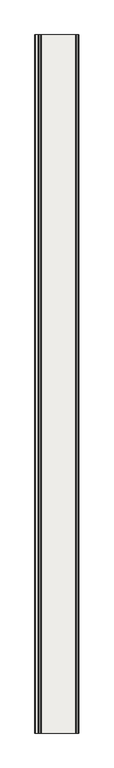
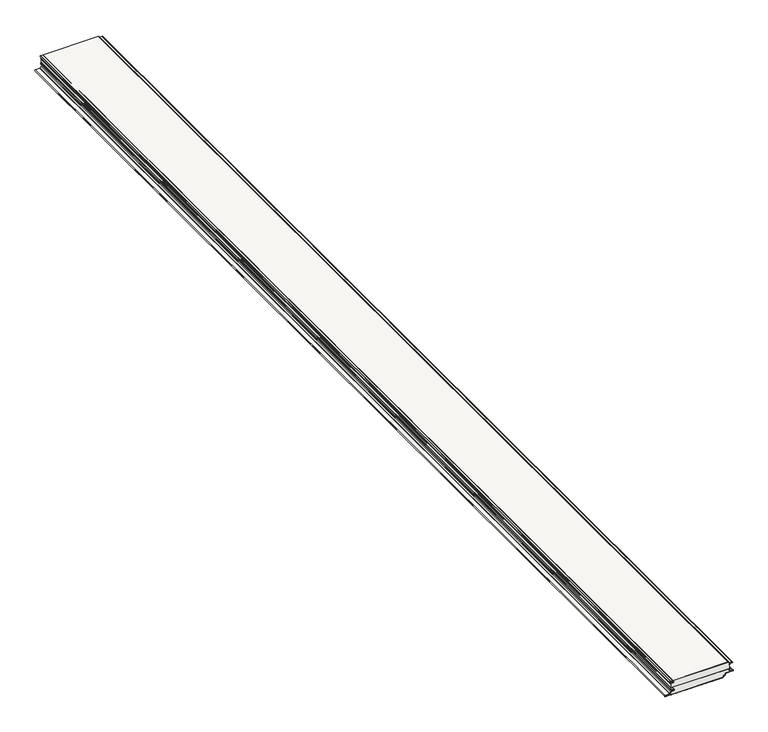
"""IFC4 building model written with IfcOpenShell, lengths in millimetres: covering geometry, Wall sandwich panel SPW-H CORE WOOL (single sheet) : -."""

from ifc_helpers import new_model, si_unit, point, frame, frame_2d, origin, place, context, project, spatial, polyline, circle_curve, trimmed, segment, composite_curve, outline, extrude, source, transform, mapped, element, save
from ifc_brep_helpers import plane_surface, cylinder_surface, revolved_surface, advanced_brep


def covering_faf521a6(model_context):
    return source(origin(), model_context, "Body", "SolidModel", [
        extrude(outline(composite_curve([segment(polyline([(-80.0, -353.2820076), (-80.4045269, -341.4570076), (-80.0, -329.6320076), (-80.4045269, -317.8070076), (-80.0, -305.9820076), (-80.4045269, -294.1570076), (-80.0, -282.3320076), (-80.4045269, -270.5070076), (-80.0, -258.6820076), (-80.4045269, -246.8570076), (-80.0, -235.0320076), (-80.4045269, -223.2070076), (-80.0, -211.3820076), (-80.4045269, -199.5570076), (-80.0, -187.7320076), (-80.4045269, -175.9070076), (-80.0, -164.0820076), (-80.4045269, -152.2570076), (-80.0, -140.4320076), (-80.4045269, -128.6070076), (-80.0, -116.7820076), (-80.4045269, -104.9570076), (-80.0, -93.1320076), (-80.0, -73.4477183)]), True, "CONTINUOUS"), segment(trimmed(circle_curve(frame_2d((-75.0, -73.4477183)), 5.0), [point((-80.0, -73.4477183))], [point((-75.0, -68.4477183))], False, "CARTESIAN"), True, "CONTINUOUS"), segment(polyline([(-75.0, -68.4477183), (-72.0092241, -68.4477183)]), True, "CONTINUOUS"), segment(trimmed(circle_curve(frame_2d((-72.0092241, -66.4315256)), 2.0161927), [point((-72.0092241, -68.4477183))], [point((-69.9930314, -66.4315256))], True, "CARTESIAN"), True, "CONTINUOUS"), segment(polyline([(-69.9930314, -66.4315256), (-69.9930314, -60.9141788)]), True, "CONTINUOUS"), segment(trimmed(circle_curve(frame_2d((-67.497194, -60.9141788)), 2.4958374), [point((-69.9930314, -60.9141788))], [point((-67.9318686, -58.4564843))], False, "CARTESIAN"), True, "CONTINUOUS"), segment(polyline([(-67.9318686, -58.4564843), (-61.6533464, -57.3460478)]), True, "CONTINUOUS"), segment(trimmed(circle_curve(frame_2d((-62.0004127, -55.3763918)), 2.0), [point((-61.6533464, -57.3460478))], [point((-60.0004127, -55.3763918))], True, "CARTESIAN"), True, "CONTINUOUS"), segment(polyline([(-60.0004127, -55.3763918), (-60.0004127, -18.8763918)]), True, "CONTINUOUS"), segment(trimmed(circle_curve(frame_2d((-57.0004127, -18.8763918)), 3.0), [point((-60.0004127, -18.8763918))], [point((-54.0045241, -18.7193839))], False, "CARTESIAN"), True, "CONTINUOUS"), segment(polyline([(-54.0045241, -18.7193839), (-53.2754556, -32.6308399)]), True, "CONTINUOUS"), segment(trimmed(circle_curve(frame_2d((-50.7788817, -32.5)), 2.5), [point((-53.2754556, -32.6308399))], [point((-50.7788817, -35.0))], True, "CARTESIAN"), True, "CONTINUOUS"), segment(polyline([(-50.7788817, -35.0), (-41.4988817, -35.0), (-41.4988817, -36.0), (-50.7788817, -36.0)]), True, "CONTINUOUS"), segment(trimmed(circle_curve(frame_2d((-50.7788817, -32.5)), 3.5), [point((-50.7788817, -36.0))], [point((-54.2740851, -32.6831758))], False, "CARTESIAN"), True, "CONTINUOUS"), segment(polyline([(-54.2740851, -32.6831758), (-55.0031536, -18.7717199)]), True, "CONTINUOUS"), segment(trimmed(circle_curve(frame_2d((-57.0004127, -18.8763918)), 2.0), [point((-55.0031536, -18.7717199))], [point((-59.0004127, -18.8763918))], True, "CARTESIAN"), True, "CONTINUOUS"), segment(polyline([(-59.0004127, -18.8763918), (-59.0004127, -55.3763918)]), True, "CONTINUOUS"), segment(trimmed(circle_curve(frame_2d((-62.0004127, -55.3763918)), 3.0), [point((-59.0004127, -55.3763918))], [point((-61.4794682, -58.330815))], False, "CARTESIAN"), True, "CONTINUOUS"), segment(polyline([(-61.4794682, -58.330815), (-67.7577087, -59.4412018)]), True, "CONTINUOUS"), segment(trimmed(circle_curve(frame_2d((-67.497194, -60.9141788)), 1.4958373), [point((-67.7577087, -59.4412018))], [point((-68.9930314, -60.9141788))], True, "CARTESIAN"), True, "CONTINUOUS"), segment(polyline([(-68.9930314, -60.9141788), (-68.9930314, -66.4315256)]), True, "CONTINUOUS"), segment(trimmed(circle_curve(frame_2d((-72.0092241, -66.4315256)), 3.0161927), [point((-68.9930314, -66.4315256))], [point((-72.0092241, -69.4477183))], False, "CARTESIAN"), True, "CONTINUOUS"), segment(polyline([(-72.0092241, -69.4477183), (-75.0, -69.4477183)]), True, "CONTINUOUS"), segment(trimmed(circle_curve(frame_2d((-75.0, -73.4477183)), 4.0), [point((-75.0, -69.4477183))], [point((-79.0, -73.4477183))], True, "CARTESIAN"), True, "CONTINUOUS"), segment(polyline([(-79.0, -73.4477183), (-79.0, -360.2066993), (-80.23689, -360.2066993), (-80.0, -353.2820076)]), True, "CONTINUOUS")], self_intersect=False)), frame((0.0, -6000.0, 0.0), z_axis=(0.0, 1.0, 0.0), x_axis=(0.0, 0.0, 1.0)), (0.0, 0.0, 1.0), 6000.0),
        extrude(outline(composite_curve([segment(polyline([(-79.0, -360.2066993), (-80.0, -360.2066993), (-80.0, -73.4477183)]), True, "CONTINUOUS"), segment(trimmed(circle_curve(frame_2d((-75.0, -73.4477183)), 5.0), [point((-80.0, -73.4477183))], [point((-75.0, -68.4477183))], False, "CARTESIAN"), True, "CONTINUOUS"), segment(polyline([(-75.0, -68.4477183), (-72.008232, -68.4477183)]), True, "CONTINUOUS"), segment(trimmed(circle_curve(frame_2d((-72.008232, -66.4315256)), 2.0161927), [point((-72.008232, -68.4477183))], [point((-69.9920393, -66.4315256))], True, "CARTESIAN"), True, "CONTINUOUS"), segment(polyline([(-69.9920393, -66.4315256), (-69.9920393, -60.9141788)]), True, "CONTINUOUS"), segment(trimmed(circle_curve(frame_2d((-67.4959919, -60.9141788)), 2.4960474), [point((-69.9920393, -60.9141788))], [point((-67.9326372, -58.4566204))], False, "CARTESIAN"), True, "CONTINUOUS"), segment(polyline([(-67.9326372, -58.4566204), (-61.6533464, -57.3460478)]), True, "CONTINUOUS"), segment(trimmed(circle_curve(frame_2d((-62.0004127, -55.3763918)), 2.0), [point((-61.6533464, -57.3460478))], [point((-60.0004127, -55.3763918))], True, "CARTESIAN"), True, "CONTINUOUS"), segment(polyline([(-60.0004127, -55.3763918), (-60.0004127, -18.8763918)]), True, "CONTINUOUS"), segment(trimmed(circle_curve(frame_2d((-57.0004127, -18.8763918)), 3.0), [point((-60.0004127, -18.8763918))], [point((-54.0045241, -18.7193839))], False, "CARTESIAN"), True, "CONTINUOUS"), segment(polyline([(-54.0045241, -18.7193839), (-53.2754556, -32.6308399)]), True, "CONTINUOUS"), segment(trimmed(circle_curve(frame_2d((-50.7788817, -32.5)), 2.5), [point((-53.2754556, -32.6308399))], [point((-50.7788817, -35.0))], True, "CARTESIAN"), True, "CONTINUOUS"), segment(polyline([(-50.7788817, -35.0), (-41.4988817, -35.0), (-41.4988817, -36.0), (-50.7788817, -36.0)]), True, "CONTINUOUS"), segment(trimmed(circle_curve(frame_2d((-50.7788817, -32.5)), 3.5), [point((-50.7788817, -36.0))], [point((-54.2740851, -32.6831758))], False, "CARTESIAN"), True, "CONTINUOUS"), segment(polyline([(-54.2740851, -32.6831758), (-55.0031536, -18.7717199)]), True, "CONTINUOUS"), segment(trimmed(circle_curve(frame_2d((-57.0004127, -18.8763918)), 2.0), [point((-55.0031536, -18.7717199))], [point((-59.0004127, -18.8763918))], True, "CARTESIAN"), True, "CONTINUOUS"), segment(polyline([(-59.0004127, -18.8763918), (-59.0004127, -55.3763918)]), True, "CONTINUOUS"), segment(trimmed(circle_curve(frame_2d((-62.0004127, -55.3763918)), 3.0), [point((-59.0004127, -55.3763918))], [point((-61.4794682, -58.330815))], False, "CARTESIAN"), True, "CONTINUOUS"), segment(polyline([(-61.4794682, -58.330815), (-67.7580406, -59.4412605)]), True, "CONTINUOUS"), segment(trimmed(circle_curve(frame_2d((-67.4959919, -60.9141788)), 1.4960474), [point((-67.7580406, -59.4412605))], [point((-68.9920393, -60.9141788))], True, "CARTESIAN"), True, "CONTINUOUS"), segment(polyline([(-68.9920393, -60.9141788), (-68.9920393, -66.4315256)]), True, "CONTINUOUS"), segment(trimmed(circle_curve(frame_2d((-72.008232, -66.4315256)), 3.0161927), [point((-68.9920393, -66.4315256))], [point((-72.008232, -69.4477183))], False, "CARTESIAN"), True, "CONTINUOUS"), segment(polyline([(-72.008232, -69.4477183), (-75.0, -69.4477183)]), True, "CONTINUOUS"), segment(trimmed(circle_curve(frame_2d((-75.0, -73.4477183)), 4.0), [point((-75.0, -69.4477183))], [point((-79.0, -73.4477183))], True, "CARTESIAN"), True, "CONTINUOUS"), segment(polyline([(-79.0, -73.4477183), (-79.0, -360.2066993)]), True, "CONTINUOUS")], self_intersect=False)), frame((0.0, -6000.0, 0.0), z_axis=(0.0, 1.0, 0.0), x_axis=(0.0, 0.0, 1.0)), (0.0, 0.0, 1.0), 6000.0),
        extrude(outline(composite_curve([segment(polyline([(-15.1088808, -358.2590335), (-14.5423642, -347.4488908)]), True, "CONTINUOUS"), segment(trimmed(circle_curve(frame_2d((-9.549216, -347.7105619)), 5.0), [point((-14.5423642, -347.4488908))], [point((-4.5522622, -347.5360557))], False, "CARTESIAN"), True, "CONTINUOUS"), segment(polyline([(-4.5522622, -347.5360557), (-4.0495702, -361.9305506)]), True, "CONTINUOUS"), segment(trimmed(circle_curve(frame_2d((-2.5266447, -361.8240519)), 1.5266447), [point((-4.0495702, -361.9305506))], [point((-1.0, -361.8240519))], True, "CARTESIAN"), True, "CONTINUOUS"), segment(polyline([(-1.0, -361.8240519), (-1.0, -360.2066993), (0.0, -360.2066993), (0.0, -361.8240519)]), True, "CONTINUOUS"), segment(trimmed(circle_curve(frame_2d((-2.5266447, -361.8240519)), 2.5266447), [point((0.0, -361.8240519))], [point((-5.0484281, -361.9807108))], False, "CARTESIAN"), True, "CONTINUOUS"), segment(polyline([(-5.0484281, -361.9807108), (-5.551653, -347.5709569)]), True, "CONTINUOUS"), segment(trimmed(circle_curve(frame_2d((-9.549216, -347.7105619)), 4.0), [point((-5.551653, -347.5709569))], [point((-13.5437346, -347.501225))], True, "CARTESIAN"), True, "CONTINUOUS"), segment(polyline([(-13.5437346, -347.501225), (-14.1102512, -358.3113678)]), True, "CONTINUOUS"), segment(trimmed(circle_curve(frame_2d((-16.1075105, -358.2066993)), 2.0), [point((-14.1102512, -358.3113678))], [point((-16.1075105, -360.2066993))], False, "CARTESIAN"), True, "CONTINUOUS"), segment(polyline([(-16.1075105, -360.2066993), (-18.1075105, -360.2066993), (-18.1075105, -359.2066993), (-16.1075105, -359.2066993)]), True, "CONTINUOUS"), segment(trimmed(circle_curve(frame_2d((-16.1075105, -358.2066993)), 1.0), [point((-16.1075105, -359.2066993))], [point((-15.1088808, -358.2590335))], True, "CARTESIAN"), True, "CONTINUOUS")], self_intersect=False)), frame((0.0, -6000.0, 0.0), z_axis=(0.0, 1.0, 0.0), x_axis=(0.0, 0.0, 1.0)), (0.0, 0.0, 1.0), 6000.0),
        advanced_brep(
        [(-355.7891872, -6000.0, -62.0150874), (-344.5391872, -6000.0, -61.9992045), (-344.2776818, -6000.0, -52.0060522), (-358.4809204, -6000.0, -51.2619406), (-359.2066993, -6000.0, -50.4971426), (-359.2066993, -6000.0, -41.4971426), (-360.2066993, -6000.0, -41.4971426), (-360.2066993, -6000.0, -50.4971426), (-358.5332389, -6000.0, -52.260571), (-344.3300003, -6000.0, -53.0046827), (-344.539863, -6000.0, -60.9992044), (-355.8463575, -6000.0, -61.0151671), (-357.9966384, -6000.0, -62.27871), (-363.3563627, -6000.0, -69.933474), (-365.4042242, -6000.0, -70.9995686), (-388.6210738, -6000.0, -70.9999738), (-388.6209953, -6000.0, -80.0), (-360.2066993, -6000.0, -80.0), (-360.2066993, -6000.0, -79.0), (-388.6209953, -6000.0, -79.0), (-388.6210564, -6000.0, -72.0), (-365.4042068, -6000.0, -71.9995686), (-362.5372007, -6000.0, -70.5070361), (-357.1774764, -6000.0, -62.8522722), (-355.7891872, 0.0, -62.0150874), (-357.1774764, 0.0, -62.8522722), (-362.5372007, 0.0, -70.5070361), (-365.4042068, 0.0, -71.9995686), (-388.6210564, 0.0, -71.9999738), (-388.6209953, 0.0, -79.0), (-360.2066993, 0.0, -79.0), (-360.2066993, 0.0, -80.0), (-388.6209953, 0.0, -80.0), (-388.6210738, 0.0, -71.0), (-365.4042242, 0.0, -70.9995686), (-363.3563627, 0.0, -69.933474), (-357.9966384, 0.0, -62.27871), (-355.8463575, 0.0, -61.0151671), (-344.539863, 0.0, -60.9992044), (-344.3300003, 0.0, -53.0046827), (-358.5332389, 0.0, -52.260571), (-360.2066993, 0.0, -50.4971426), (-360.2066993, 0.0, -41.4971426), (-359.2066993, 0.0, -41.4971426), (-359.2066993, 0.0, -50.4971426), (-358.4809204, 0.0, -51.2619406), (-344.2776818, 0.0, -52.0060522), (-344.5391872, 0.0, -61.9992045)],
        [
            (0, 1),
            (1, 2, circle_curve(frame((-344.5392744, -6000.0, -56.9992045), z_axis=(0.0, -1.0, 0.0), x_axis=(1.0, 0.0, 0.0)), 5.0)),
            (2, 3),
            (3, 4, circle_curve(frame((-358.4408524, -6000.0, -50.4971426), z_axis=(0.0, 1.0, 0.0), x_axis=(1.0, 0.0, 0.0)), 0.7658469)),
            (4, 5),
            (5, 6),
            (6, 7),
            (7, 8, circle_curve(frame((-358.4408524, -6000.0, -50.4971426), z_axis=(0.0, -1.0, 0.0), x_axis=(1.0, 0.0, 0.0)), 1.7658469)),
            (8, 9),
            (9, 10, circle_curve(frame((-344.5392744, -6000.0, -56.9992045), z_axis=(0.0, 1.0, 0.0), x_axis=(1.0, 0.0, 0.0)), 4.0)),
            (10, 11),
            (11, 12, circle_curve(frame((-355.5391523, -6000.0, -63.9993964), z_axis=(0.0, -1.0, 0.0), x_axis=(1.0, 0.0, 0.0)), 3.0)),
            (12, 13),
            (13, 14, circle_curve(frame((-365.4042679, -6000.0, -68.4995686), z_axis=(0.0, 1.0, 0.0), x_axis=(1.0, 0.0, 0.0)), 2.5)),
            (14, 15),
            (15, 16, circle_curve(frame((-388.6209953, -6000.0, -75.5), z_axis=(0.0, -1.0, 0.0), x_axis=(1.0, 0.0, 0.0)), 4.5)),
            (16, 17),
            (17, 18),
            (18, 19),
            (19, 20, circle_curve(frame((-388.6209953, -6000.0, -75.5), z_axis=(0.0, 1.0, 0.0), x_axis=(1.0, 0.0, 0.0)), 3.5)),
            (20, 21),
            (21, 22, circle_curve(frame((-365.4042679, -6000.0, -68.4995686), z_axis=(0.0, -1.0, 0.0), x_axis=(1.0, 0.0, 0.0)), 3.5)),
            (22, 23),
            (23, 0, circle_curve(frame((-355.5391523, -6000.0, -63.9993964), z_axis=(0.0, 1.0, 0.0), x_axis=(1.0, 0.0, 0.0)), 2.0)),
            (24, 25, circle_curve(frame((-355.5391523, 0.0, -63.9993964), z_axis=(0.0, -1.0, 0.0), x_axis=(1.0, 0.0, 0.0)), 2.0)),
            (25, 26),
            (26, 27, circle_curve(frame((-365.4042679, 0.0, -68.4995686), z_axis=(0.0, 1.0, 0.0), x_axis=(1.0, 0.0, 0.0)), 3.5)),
            (27, 28),
            (28, 29, circle_curve(frame((-388.6209953, 0.0, -75.5), z_axis=(0.0, -1.0, 0.0), x_axis=(1.0, 0.0, 0.0)), 3.5)),
            (29, 30),
            (30, 31),
            (31, 32),
            (32, 33, circle_curve(frame((-388.6209953, 0.0, -75.5), z_axis=(0.0, 1.0, 0.0), x_axis=(1.0, 0.0, 0.0)), 4.5)),
            (33, 34),
            (34, 35, circle_curve(frame((-365.4042679, 0.0, -68.4995686), z_axis=(0.0, -1.0, 0.0), x_axis=(1.0, 0.0, 0.0)), 2.5)),
            (35, 36),
            (36, 37, circle_curve(frame((-355.5391523, 0.0, -63.9993964), z_axis=(0.0, 1.0, 0.0), x_axis=(1.0, 0.0, 0.0)), 3.0)),
            (37, 38),
            (38, 39, circle_curve(frame((-344.5392744, 0.0, -56.9992045), z_axis=(0.0, -1.0, 0.0), x_axis=(1.0, 0.0, 0.0)), 4.0)),
            (39, 40),
            (40, 41, circle_curve(frame((-358.4408524, 0.0, -50.4971426), z_axis=(0.0, 1.0, 0.0), x_axis=(1.0, 0.0, 0.0)), 1.7658469)),
            (41, 42),
            (42, 43),
            (43, 44),
            (44, 45, circle_curve(frame((-358.4408524, 0.0, -50.4971426), z_axis=(0.0, -1.0, 0.0), x_axis=(1.0, 0.0, 0.0)), 0.7658469)),
            (45, 46),
            (46, 47, circle_curve(frame((-344.5392744, 0.0, -56.9992045), z_axis=(0.0, 1.0, 0.0), x_axis=(1.0, 0.0, 0.0)), 5.0)),
            (47, 24),
            (0, 24),
            (47, 1),
            (46, 2),
            (45, 3),
            (44, 4),
            (43, 5),
            (42, 6),
            (41, 7),
            (40, 8),
            (39, 9),
            (38, 10),
            (37, 11),
            (36, 12),
            (35, 13),
            (34, 14),
            (33, 15),
            (32, 16),
            (31, 17),
            (30, 18),
            (29, 19),
            (28, 20),
            (27, 21),
            (26, 22),
            (25, 23),
        ],
        [
            plane_surface(frame((-360.2066993, -6000.0, -80.0), z_axis=(0.0, -1.0, 0.0), x_axis=(0.0, 0.0, -1.0))),
            plane_surface(frame((-360.2066993, 0.0, -80.0), z_axis=(0.0, 1.0, 0.0), x_axis=(0.0, 0.0, -1.0))),
            plane_surface(frame((-355.7891872, -6000.0, -62.0150874), z_axis=(0.001411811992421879, 0.0, -0.9999990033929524), x_axis=(0.0, 1.0, 0.0))),
            cylinder_surface(frame((-344.5392744, -6000.0, -56.9992045), z_axis=(0.0, -1.0, 0.0), x_axis=(1.0, 0.0, 0.0)), 5.0),
            plane_surface(frame((-344.2776818, -6000.0, -52.0060522), z_axis=(0.05231852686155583, 0.0, 0.998630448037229), x_axis=(0.0, 1.0, 0.0))),
            revolved_surface(polyline([(-357.6750055, 0.0, -50.4971426), (-357.6750055, -6000.0, -50.4971426)]), (-358.4408524, -6000.0, -50.4971426), (0.0, 1.0, 0.0)),
            plane_surface(frame((-359.2066993, -6000.0, -50.4971426), z_axis=(1.0, 0.0, 0.0), x_axis=(0.0, 1.0, 0.0))),
            plane_surface(frame((-359.2066993, -6000.0, -41.4971426), z_axis=(0.0, 0.0, 1.0), x_axis=(0.0, 1.0, 0.0))),
            plane_surface(frame((-360.2066993, -6000.0, -41.4971426), z_axis=(-1.0, 0.0, 0.0), x_axis=(0.0, 1.0, 0.0))),
            cylinder_surface(frame((-358.4408524, -6000.0, -50.4971426), z_axis=(0.0, -1.0, 0.0), x_axis=(1.0, 0.0, 0.0)), 1.7658469),
            plane_surface(frame((-358.5332389, -6000.0, -52.260571), z_axis=(-0.052318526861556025, 0.0, -0.998630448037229), x_axis=(0.0, 1.0, 0.0))),
            revolved_surface(polyline([(-340.5392744, 0.0, -56.9992045), (-340.5392744, -6000.0, -56.9992045)]), (-344.5392744, -6000.0, -56.9992045), (0.0, 1.0, 0.0)),
            plane_surface(frame((-344.539863, -6000.0, -60.9992044), z_axis=(-0.0014118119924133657, 0.0, 0.9999990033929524), x_axis=(0.0, 1.0, 0.0))),
            cylinder_surface(frame((-355.5391523, -6000.0, -63.9993964), z_axis=(0.0, -1.0, 0.0), x_axis=(1.0, 0.0, 0.0)), 3.0),
            plane_surface(frame((-357.9966384, -6000.0, -62.27871), z_axis=(-0.8191620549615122, 0.0, 0.5735621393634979), x_axis=(0.0, 1.0, 0.0))),
            revolved_surface(polyline([(-362.9042679, 0.0, -68.4995686), (-362.9042679, -6000.0, -68.4995686)]), (-365.4042679, -6000.0, -68.4995686), (0.0, 1.0, 0.0)),
            plane_surface(frame((-365.4042242, -6000.0, -70.9995686), z_axis=(-1.7453292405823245e-05, 0.0, 0.9999999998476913), x_axis=(0.0, 1.0, 0.0))),
            cylinder_surface(frame((-388.6209953, -6000.0, -75.5), z_axis=(0.0, -1.0, 0.0), x_axis=(1.0, 0.0, 0.0)), 4.5),
            plane_surface(frame((-388.6209953, -6000.0, -80.0), z_axis=(0.0, 0.0, -1.0), x_axis=(0.0, 1.0, 0.0))),
            plane_surface(frame((-360.2066993, -6000.0, -80.0), z_axis=(1.0, 0.0, 0.0), x_axis=(0.0, 1.0, 0.0))),
            plane_surface(frame((-360.2066993, -6000.0, -79.0), z_axis=(0.0, 0.0, 1.0), x_axis=(0.0, 1.0, 0.0))),
            revolved_surface(polyline([(-385.1209953, 0.0, -75.5), (-385.1209953, -6000.0, -75.5)]), (-388.6209953, -6000.0, -75.5), (0.0, 1.0, 0.0)),
            plane_surface(frame((-388.6210564, -6000.0, -71.9999738), z_axis=(1.7453292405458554e-05, 0.0, -0.9999999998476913), x_axis=(0.0, 1.0, 0.0))),
            cylinder_surface(frame((-365.4042679, -6000.0, -68.4995686), z_axis=(0.0, -1.0, 0.0), x_axis=(1.0, 0.0, 0.0)), 3.5),
            plane_surface(frame((-362.5372007, -6000.0, -70.5070361), z_axis=(0.8191620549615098, 0.0, -0.5735621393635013), x_axis=(0.0, 1.0, 0.0))),
            revolved_surface(polyline([(-353.5391523, 0.0, -63.9993964), (-353.5391523, -6000.0, -63.9993964)]), (-355.5391523, -6000.0, -63.9993964), (0.0, 1.0, 0.0)),
        ],
        [
            (0, [[1, 2, 3, 4, 5, 6, 7, 8, 9, 10, 11, 12, 13, 14, 15, 16, 17, 18, 19, 20, 21, 22, 23, 24]]),
            (1, [[25, 26, 27, 28, 29, 30, 31, 32, 33, 34, 35, 36, 37, 38, 39, 40, 41, 42, 43, 44, 45, 46, 47, 48]]),
            (2, [[-1, 49, -48, 50]]),
            (3, [[-2, -50, -47, 51]]),
            (4, [[-3, -51, -46, 52]]),
            (5, [[-4, -52, -45, 53]]),
            (6, [[-5, -53, -44, 54]]),
            (7, [[-6, -54, -43, 55]]),
            (8, [[-7, -55, -42, 56]]),
            (9, [[-8, -56, -41, 57]]),
            (10, [[-9, -57, -40, 58]]),
            (11, [[-10, -58, -39, 59]]),
            (12, [[-11, -59, -38, 60]]),
            (13, [[-12, -60, -37, 61]]),
            (14, [[-13, -61, -36, 62]]),
            (15, [[-14, -62, -35, 63]]),
            (16, [[-15, -63, -34, 64]]),
            (17, [[-16, -64, -33, 65]]),
            (18, [[-17, -65, -32, 66]]),
            (19, [[-18, -66, -31, 67]]),
            (20, [[-19, -67, -30, 68]]),
            (21, [[-20, -68, -29, 69]]),
            (22, [[-21, -69, -28, 70]]),
            (23, [[-22, -70, -27, 71]]),
            (24, [[-23, -71, -26, 72]]),
            (25, [[-24, -72, -25, -49]]),
        ],
    ),
        extrude(outline(composite_curve([segment(polyline([(-1.0, -360.2066993), (-1.0, -42.1186621)]), True, "CONTINUOUS"), segment(trimmed(circle_curve(frame_2d((-2.5, -42.1186621)), 1.5), [point((-1.0, -42.1186621))], [point((-2.5, -40.6186621))], True, "CARTESIAN"), True, "CONTINUOUS"), segment(polyline([(-2.5, -40.6186621), (-4.3, -40.6186621)]), True, "CONTINUOUS"), segment(trimmed(circle_curve(frame_2d((-4.3, -38.1186621)), 2.5), [point((-4.3, -40.6186621))], [point((-6.7984771, -38.2059108))], False, "CARTESIAN"), True, "CONTINUOUS"), segment(polyline([(-6.7984771, -38.2059108), (-7.363951, -22.012857)]), True, "CONTINUOUS"), segment(trimmed(circle_curve(frame_2d((-9.3627326, -22.082656)), 2.0), [point((-7.363951, -22.012857))], [point((-11.3599917, -21.9779841))], True, "CARTESIAN"), True, "CONTINUOUS"), segment(polyline([(-11.3599917, -21.9779841), (-11.921027, -32.6831758)]), True, "CONTINUOUS"), segment(trimmed(circle_curve(frame_2d((-15.4162304, -32.5)), 3.5), [point((-11.921027, -32.6831758))], [point((-15.4162304, -36.0))], False, "CARTESIAN"), True, "CONTINUOUS"), segment(polyline([(-15.4162304, -36.0), (-18.1062304, -36.0), (-18.1062304, -35.0), (-15.4162304, -35.0)]), True, "CONTINUOUS"), segment(trimmed(circle_curve(frame_2d((-15.4162304, -32.5)), 2.5), [point((-15.4162304, -35.0))], [point((-12.9196566, -32.6308399))], True, "CARTESIAN"), True, "CONTINUOUS"), segment(polyline([(-12.9196566, -32.6308399), (-12.3586212, -21.9256482)]), True, "CONTINUOUS"), segment(trimmed(circle_curve(frame_2d((-9.3627326, -22.082656)), 3.0), [point((-12.3586212, -21.9256482))], [point((-6.3645601, -21.9779575))], False, "CARTESIAN"), True, "CONTINUOUS"), segment(polyline([(-6.3645601, -21.9779575), (-5.7990862, -38.1710114)]), True, "CONTINUOUS"), segment(trimmed(circle_curve(frame_2d((-4.3, -38.1186621)), 1.5), [point((-5.7990862, -38.1710114))], [point((-4.3, -39.6186621))], True, "CARTESIAN"), True, "CONTINUOUS"), segment(polyline([(-4.3, -39.6186621), (-2.5, -39.6186621)]), True, "CONTINUOUS"), segment(trimmed(circle_curve(frame_2d((-2.5, -42.1186621)), 2.5), [point((-2.5, -39.6186621))], [point((0.0, -42.1186621))], False, "CARTESIAN"), True, "CONTINUOUS"), segment(polyline([(0.0, -42.1186621), (0.0, -360.2066993), (-1.0, -360.2066993)]), True, "CONTINUOUS")], self_intersect=False)), frame((0.0, -6000.0, 0.0), z_axis=(0.0, 1.0, 0.0), x_axis=(0.0, 0.0, 1.0)), (0.0, 0.0, 1.0), 6000.0),
        advanced_brep(
        [(-388.6209953, -6000.0, -79.0), (-360.2066993, -6000.0, -79.0), (-73.4477183, -6000.0, -79.0), (-69.4477183, -6000.0, -75.0), (-69.4477183, -6000.0, -72.0078193), (-66.4315256, -6000.0, -68.9916266), (-60.9141788, -6000.0, -68.9916266), (-59.4412605, -6000.0, -67.7576279), (-58.330815, -6000.0, -61.4790555), (-55.3763918, -6000.0, -59.0), (-18.8763918, -6000.0, -59.0), (-18.7717199, -6000.0, -55.0027409), (-32.6831758, -6000.0, -54.2736724), (-36.0, -6000.0, -50.778469), (-36.0, -6000.0, -40.0), (-359.2066993, -6000.0, -40.0), (-359.2066993, -6000.0, -50.4973345), (-358.4809204, -6000.0, -51.2621326), (-344.2776818, -6000.0, -52.0062442), (-344.5391872, -6000.0, -61.9993964), (-355.5391872, -6000.0, -61.9993964), (-357.1774764, -6000.0, -62.8522722), (-362.5372007, -6000.0, -70.5070361), (-365.4042068, -6000.0, -71.9995686), (-388.6210564, -6000.0, -71.9995686), (-360.2066993, 0.0, -79.0), (-388.6209953, 0.0, -79.0), (-388.6210564, 0.0, -72.0), (-365.4042068, 0.0, -71.9995686), (-362.5372007, 0.0, -70.5070361), (-357.1774764, 0.0, -62.8522722), (-355.5391872, 0.0, -61.9993964), (-344.5391872, 0.0, -61.9993964), (-344.2776818, 0.0, -52.0062442), (-358.4809204, 0.0, -51.2621326), (-359.2066993, 0.0, -50.4973345), (-359.2066993, 0.0, -40.0), (-36.0, 0.0, -40.0), (-36.0, 0.0, -50.778469), (-32.6831758, 0.0, -54.2736724), (-18.7717199, 0.0, -55.0027409), (-18.8763918, 0.0, -59.0), (-55.3763918, 0.0, -59.0), (-58.330815, 0.0, -61.4790555), (-59.4412605, 0.0, -67.7576279), (-60.9141788, 0.0, -68.9916266), (-66.4315256, 0.0, -68.9916266), (-69.4477183, 0.0, -72.0078193), (-69.4477183, 0.0, -75.0), (-73.4477183, 0.0, -79.0)],
        [
            (0, 1),
            (1, 2),
            (2, 3, circle_curve(frame((-73.4477183, -6000.0, -75.0), z_axis=(0.0, -1.0, 0.0), x_axis=(-1.0, 0.0, 0.0)), 4.0)),
            (3, 4),
            (4, 5, circle_curve(frame((-66.4315256, -6000.0, -72.0078193), z_axis=(0.0, 1.0, 0.0), x_axis=(-1.0, 0.0, 0.0)), 3.0161927)),
            (5, 6),
            (6, 7, circle_curve(frame((-60.9141788, -6000.0, -67.4955792), z_axis=(0.0, -1.0, 0.0), x_axis=(-1.0, 0.0, 0.0)), 1.4960474)),
            (7, 8),
            (8, 9, circle_curve(frame((-55.3763918, -6000.0, -62.0), z_axis=(0.0, 1.0, 0.0), x_axis=(-1.0, 0.0, 0.0)), 3.0)),
            (9, 10),
            (10, 11, circle_curve(frame((-18.8763918, -6000.0, -57.0), z_axis=(0.0, -1.0, 0.0), x_axis=(-1.0, 0.0, 0.0)), 2.0)),
            (11, 12),
            (12, 13, circle_curve(frame((-32.5, -6000.0, -50.778469), z_axis=(0.0, 1.0, 0.0), x_axis=(-1.0, 0.0, 0.0)), 3.5)),
            (13, 14),
            (14, 15),
            (15, 16),
            (16, 17, circle_curve(frame((-358.4408524, -6000.0, -50.4973345), z_axis=(0.0, -1.0, 0.0), x_axis=(-1.0, 0.0, 0.0)), 0.7658469)),
            (17, 18),
            (18, 19, circle_curve(frame((-344.5392744, -6000.0, -56.9993964), z_axis=(0.0, 1.0, 0.0), x_axis=(-1.0, 0.0, 0.0)), 5.0)),
            (19, 20),
            (20, 21, circle_curve(frame((-355.5391523, -6000.0, -63.9993964), z_axis=(0.0, -1.0, 0.0), x_axis=(-1.0, 0.0, 0.0)), 2.0)),
            (21, 22),
            (22, 23, circle_curve(frame((-365.4042679, -6000.0, -68.4995686), z_axis=(0.0, 1.0, 0.0), x_axis=(-1.0, 0.0, 0.0)), 3.5)),
            (23, 24),
            (24, 0, circle_curve(frame((-388.6209953, -6000.0, -75.5), z_axis=(0.0, -1.0, 0.0), x_axis=(-1.0, 0.0, 0.0)), 3.5)),
            (25, 26),
            (26, 27, circle_curve(frame((-388.6209953, 0.0, -75.5), z_axis=(0.0, 1.0, 0.0), x_axis=(-1.0, 0.0, 0.0)), 3.5)),
            (27, 28),
            (28, 29, circle_curve(frame((-365.4042679, 0.0, -68.4995686), z_axis=(0.0, -1.0, 0.0), x_axis=(-1.0, 0.0, 0.0)), 3.5)),
            (29, 30),
            (30, 31, circle_curve(frame((-355.5391523, 0.0, -63.9993964), z_axis=(0.0, 1.0, 0.0), x_axis=(-1.0, 0.0, 0.0)), 2.0)),
            (31, 32),
            (32, 33, circle_curve(frame((-344.5392744, 0.0, -56.9993964), z_axis=(0.0, -1.0, 0.0), x_axis=(-1.0, 0.0, 0.0)), 5.0)),
            (33, 34),
            (34, 35, circle_curve(frame((-358.4408524, 0.0, -50.4973345), z_axis=(0.0, 1.0, 0.0), x_axis=(-1.0, 0.0, 0.0)), 0.7658469)),
            (35, 36),
            (36, 37),
            (37, 38),
            (38, 39, circle_curve(frame((-32.5, 0.0, -50.778469), z_axis=(0.0, -1.0, 0.0), x_axis=(-1.0, 0.0, 0.0)), 3.5)),
            (39, 40),
            (40, 41, circle_curve(frame((-18.8763918, 0.0, -57.0), z_axis=(0.0, 1.0, 0.0), x_axis=(-1.0, 0.0, 0.0)), 2.0)),
            (41, 42),
            (42, 43, circle_curve(frame((-55.3763918, 0.0, -62.0), z_axis=(0.0, -1.0, 0.0), x_axis=(-1.0, 0.0, 0.0)), 3.0)),
            (43, 44),
            (44, 45, circle_curve(frame((-60.9141788, 0.0, -67.4955792), z_axis=(0.0, 1.0, 0.0), x_axis=(-1.0, 0.0, 0.0)), 1.4960474)),
            (45, 46),
            (46, 47, circle_curve(frame((-66.4315256, 0.0, -72.0078193), z_axis=(0.0, -1.0, 0.0), x_axis=(-1.0, 0.0, 0.0)), 3.0161927)),
            (47, 48),
            (48, 49, circle_curve(frame((-73.4477183, 0.0, -75.0), z_axis=(0.0, 1.0, 0.0), x_axis=(-1.0, 0.0, 0.0)), 4.0)),
            (49, 25),
            (36, 15),
            (14, 37),
            (0, 26),
            (49, 2),
            (13, 38),
            (12, 39),
            (11, 40),
            (10, 41),
            (9, 42),
            (8, 43),
            (7, 44),
            (6, 45),
            (5, 46),
            (4, 47),
            (3, 48),
            (24, 27),
            (23, 28),
            (22, 29),
            (21, 30),
            (20, 31),
            (19, 32),
            (18, 33),
            (17, 34),
            (16, 35),
        ],
        [
            plane_surface(frame((-420.2066993, -6000.0, -40.0), z_axis=(0.0, -1.0, 0.0), x_axis=(-1.0, 0.0, 0.0))),
            plane_surface(frame((-420.2066993, 0.0, -40.0), z_axis=(0.0, 1.0, 0.0), x_axis=(1.0, 0.0, 0.0))),
            plane_surface(frame((25.0, -6000.0, -40.0), z_axis=(0.0, 0.0, 1.0), x_axis=(0.0, 1.0, 0.0))),
            plane_surface(frame((-420.2066993, -6000.0, -79.0), z_axis=(0.0, 0.0, -1.0), x_axis=(0.0, 1.0, 0.0))),
            plane_surface(frame((-36.0, -6000.0, -15.4162304), z_axis=(1.0, 0.0, 0.0), x_axis=(0.0, 1.0, 0.0))),
            revolved_surface(polyline([(-36.0, -6000.0, -50.778469), (-36.0, 0.0, -50.778469)]), (-32.5, -6000.0, -50.778469), (0.0, -1.0, 0.0)),
            plane_surface(frame((-32.6831758, -6000.0, -54.2736724), z_axis=(0.052335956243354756, 0.0, 0.9986295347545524), x_axis=(0.0, 1.0, 0.0))),
            cylinder_surface(frame((-18.8763918, -6000.0, -57.0), z_axis=(0.0, 1.0, 0.0), x_axis=(-1.0, 0.0, 0.0)), 2.0),
            plane_surface(frame((-18.8763918, -6000.0, -59.0), z_axis=(0.0, 0.0, -1.0), x_axis=(0.0, 1.0, 0.0))),
            revolved_surface(polyline([(-58.3763918, -6000.0, -62.0), (-58.3763918, 0.0, -62.0)]), (-55.3763918, -6000.0, -62.0), (0.0, -1.0, 0.0)),
            plane_surface(frame((-58.330815, -6000.0, -61.4790555), z_axis=(0.9847174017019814, 0.0, -0.1741598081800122), x_axis=(0.0, 1.0, 0.0))),
            cylinder_surface(frame((-60.9141788, -6000.0, -67.4955792), z_axis=(0.0, 1.0, 0.0), x_axis=(-1.0, 0.0, 0.0)), 1.4960474),
            plane_surface(frame((-60.9141788, -6000.0, -68.9916266), z_axis=(0.0, 0.0, -1.0), x_axis=(0.0, 1.0, 0.0))),
            revolved_surface(polyline([(-69.4477183, -6000.0, -72.0078193), (-69.4477183, 0.0, -72.0078193)]), (-66.4315256, -6000.0, -72.0078193), (0.0, -1.0, 0.0)),
            plane_surface(frame((-69.4477183, -6000.0, -72.0078193), z_axis=(1.0, 0.0, 0.0), x_axis=(0.0, 1.0, 0.0))),
            cylinder_surface(frame((-73.4477183, -6000.0, -75.0), z_axis=(0.0, 1.0, 0.0), x_axis=(-1.0, 0.0, 0.0)), 4.0),
            cylinder_surface(frame((-388.6209953, -6000.0, -75.5), z_axis=(0.0, 1.0, 0.0), x_axis=(-1.0, 0.0, 0.0)), 3.5),
            plane_surface(frame((-388.6210564, -6000.0, -71.9995686), z_axis=(0.0, 0.0, 1.0), x_axis=(0.0, 1.0, 0.0))),
            revolved_surface(polyline([(-368.9042679, -6000.0, -68.4995686), (-368.9042679, 0.0, -68.4995686)]), (-365.4042679, -6000.0, -68.4995686), (0.0, -1.0, 0.0)),
            plane_surface(frame((-362.5372007, -6000.0, -70.5070361), z_axis=(-0.8191620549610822, 0.0, 0.573562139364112), x_axis=(0.0, 1.0, 0.0))),
            cylinder_surface(frame((-355.5391523, -6000.0, -63.9993964), z_axis=(0.0, 1.0, 0.0), x_axis=(-1.0, 0.0, 0.0)), 2.0),
            plane_surface(frame((-355.5391872, -6000.0, -61.9993964), z_axis=(0.0, 0.0, 1.0), x_axis=(0.0, 1.0, 0.0))),
            revolved_surface(polyline([(-349.5392744, -6000.0, -56.9993964), (-349.5392744, 0.0, -56.9993964)]), (-344.5392744, -6000.0, -56.9993964), (0.0, -1.0, 0.0)),
            plane_surface(frame((-344.2776818, -6000.0, -52.0062442), z_axis=(-0.05231852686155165, 0.0, -0.9986304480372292), x_axis=(0.0, 1.0, 0.0))),
            cylinder_surface(frame((-358.4408524, -6000.0, -50.4973345), z_axis=(0.0, 1.0, 0.0), x_axis=(-1.0, 0.0, 0.0)), 0.7658469),
            plane_surface(frame((-359.2066993, -6000.0, -50.4973345), z_axis=(-1.0, 0.0, 0.0), x_axis=(0.0, 1.0, 0.0))),
        ],
        [
            (0, [[1, 2, 3, 4, 5, 6, 7, 8, 9, 10, 11, 12, 13, 14, 15, 16, 17, 18, 19, 20, 21, 22, 23, 24, 25]]),
            (1, [[26, 27, 28, 29, 30, 31, 32, 33, 34, 35, 36, 37, 38, 39, 40, 41, 42, 43, 44, 45, 46, 47, 48, 49, 50]]),
            (2, [[51, -15, 52, -37]]),
            (3, [[-1, 53, -26, -50, 54, -2]]),
            (4, [[55, -38, -52, -14]]),
            (5, [[-55, -13, 56, -39]]),
            (6, [[-56, -12, 57, -40]]),
            (7, [[-57, -11, 58, -41]]),
            (8, [[-58, -10, 59, -42]]),
            (9, [[-59, -9, 60, -43]]),
            (10, [[-60, -8, 61, -44]]),
            (11, [[-61, -7, 62, -45]]),
            (12, [[-62, -6, 63, -46]]),
            (13, [[-63, -5, 64, -47]]),
            (14, [[-64, -4, 65, -48]]),
            (15, [[-65, -3, -54, -49]]),
            (16, [[66, -27, -53, -25]]),
            (17, [[-66, -24, 67, -28]]),
            (18, [[-67, -23, 68, -29]]),
            (19, [[-68, -22, 69, -30]]),
            (20, [[-69, -21, 70, -31]]),
            (21, [[-70, -20, 71, -32]]),
            (22, [[-71, -19, 72, -33]]),
            (23, [[-72, -18, 73, -34]]),
            (24, [[-73, -17, 74, -35]]),
            (25, [[-74, -16, -51, -36]]),
        ],
    ),
        advanced_brep(
        [(-360.2066993, -6000.0, -1.0), (-361.8240519, -6000.0, -1.0), (-361.9305506, -6000.0, -4.0495702), (-347.5360557, -6000.0, -4.5522622), (-347.4488908, -6000.0, -14.5423642), (-358.2590335, -6000.0, -15.1088808), (-359.2066993, -6000.0, -16.1075105), (-359.2066993, -6000.0, -40.0), (-36.0, -6000.0, -40.0), (-36.0, -6000.0, -15.4162304), (-32.6831758, -6000.0, -11.921027), (-21.9779841, -6000.0, -11.3599917), (-22.012857, -6000.0, -7.363951), (-38.2059108, -6000.0, -6.7984771), (-40.6186621, -6000.0, -4.3), (-40.6186621, -6000.0, -2.5), (-42.1186621, -6000.0, -1.0), (-43.1368714, -6000.0, -1.0), (-361.8240519, 0.0, -1.0), (-360.2066993, 0.0, -1.0), (-43.1368714, 0.0, -1.0), (-42.1186621, 0.0, -1.0), (-40.6186621, 0.0, -2.5), (-40.6186621, 0.0, -4.3), (-38.2059108, 0.0, -6.7984771), (-22.012857, 0.0, -7.363951), (-21.9779841, 0.0, -11.3599917), (-32.6831758, 0.0, -11.921027), (-36.0, 0.0, -15.4162304), (-36.0, 0.0, -40.0), (-359.2066993, 0.0, -40.0), (-359.2066993, 0.0, -16.1075105), (-358.2590335, 0.0, -15.1088808), (-347.4488908, 0.0, -14.5423642), (-347.5360557, 0.0, -4.5522622), (-361.9305506, 0.0, -4.0495702)],
        [
            (0, 1),
            (1, 2, circle_curve(frame((-361.8240519, -6000.0, -2.5266447), z_axis=(0.0, -1.0, 0.0), x_axis=(-1.0, 0.0, 0.0)), 1.5266447)),
            (2, 3),
            (3, 4, circle_curve(frame((-347.7105619, -6000.0, -9.549216), z_axis=(0.0, 1.0, 0.0), x_axis=(-1.0, 0.0, 0.0)), 5.0)),
            (4, 5),
            (5, 6, circle_curve(frame((-358.2066993, -6000.0, -16.1075105), z_axis=(0.0, -1.0, 0.0), x_axis=(-1.0, 0.0, 0.0)), 1.0)),
            (6, 7),
            (7, 8),
            (8, 9),
            (9, 10, circle_curve(frame((-32.5, -6000.0, -15.4162304), z_axis=(0.0, 1.0, 0.0), x_axis=(-1.0, 0.0, 0.0)), 3.5)),
            (10, 11),
            (11, 12, circle_curve(frame((-22.082656, -6000.0, -9.3627326), z_axis=(0.0, -1.0, 0.0), x_axis=(-1.0, 0.0, 0.0)), 2.0)),
            (12, 13),
            (13, 14, circle_curve(frame((-38.1186621, -6000.0, -4.3), z_axis=(0.0, 1.0, 0.0), x_axis=(-1.0, 0.0, 0.0)), 2.5)),
            (14, 15),
            (15, 16, circle_curve(frame((-42.1186621, -6000.0, -2.5), z_axis=(0.0, -1.0, 0.0), x_axis=(-1.0, 0.0, 0.0)), 1.5)),
            (16, 17),
            (17, 0),
            (18, 19),
            (19, 20),
            (20, 21),
            (21, 22, circle_curve(frame((-42.1186621, 0.0, -2.5), z_axis=(0.0, 1.0, 0.0), x_axis=(-1.0, 0.0, 0.0)), 1.5)),
            (22, 23),
            (23, 24, circle_curve(frame((-38.1186621, 0.0, -4.3), z_axis=(0.0, -1.0, 0.0), x_axis=(-1.0, 0.0, 0.0)), 2.5)),
            (24, 25),
            (25, 26, circle_curve(frame((-22.082656, 0.0, -9.3627326), z_axis=(0.0, 1.0, 0.0), x_axis=(-1.0, 0.0, 0.0)), 2.0)),
            (26, 27),
            (27, 28, circle_curve(frame((-32.5, 0.0, -15.4162304), z_axis=(0.0, -1.0, 0.0), x_axis=(-1.0, 0.0, 0.0)), 3.5)),
            (28, 29),
            (29, 30),
            (30, 31),
            (31, 32, circle_curve(frame((-358.2066993, 0.0, -16.1075105), z_axis=(0.0, 1.0, 0.0), x_axis=(-1.0, 0.0, 0.0)), 1.0)),
            (32, 33),
            (33, 34, circle_curve(frame((-347.7105619, 0.0, -9.549216), z_axis=(0.0, -1.0, 0.0), x_axis=(-1.0, 0.0, 0.0)), 5.0)),
            (34, 35),
            (35, 18, circle_curve(frame((-361.8240519, 0.0, -2.5266447), z_axis=(0.0, 1.0, 0.0), x_axis=(-1.0, 0.0, 0.0)), 1.5266447)),
            (16, 21),
            (18, 1),
            (7, 30),
            (29, 8),
            (15, 22),
            (14, 23),
            (13, 24),
            (12, 25),
            (11, 26),
            (10, 27),
            (9, 28),
            (6, 31),
            (5, 32),
            (4, 33),
            (3, 34),
            (2, 35),
        ],
        [
            plane_surface(frame((-420.2066993, -6000.0, -1.0), z_axis=(0.0, -1.0, 0.0), x_axis=(-1.0, 0.0, 0.0))),
            plane_surface(frame((-420.2066993, 0.0, -1.0), z_axis=(0.0, 1.0, 0.0), x_axis=(1.0, 0.0, 0.0))),
            plane_surface(frame((25.0, -6000.0, -1.0), z_axis=(0.0, 0.0, 1.0), x_axis=(0.0, 1.0, 0.0))),
            plane_surface(frame((-420.2066993, -6000.0, -40.0), z_axis=(0.0, 0.0, -1.0), x_axis=(0.0, 1.0, 0.0))),
            cylinder_surface(frame((-42.1186621, -6000.0, -2.5), z_axis=(0.0, 1.0, 0.0), x_axis=(-1.0, 0.0, 0.0)), 1.5),
            plane_surface(frame((-40.6186621, -6000.0, -2.5), z_axis=(1.0, 0.0, 0.0), x_axis=(0.0, 1.0, 0.0))),
            revolved_surface(polyline([(-40.6186621, -6000.0, -4.3), (-40.6186621, 0.0, -4.3)]), (-38.1186621, -6000.0, -4.3), (0.0, -1.0, 0.0)),
            plane_surface(frame((-38.2059108, -6000.0, -6.7984771), z_axis=(0.03489949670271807, 0.0, 0.9993908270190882), x_axis=(0.0, 1.0, 0.0))),
            cylinder_surface(frame((-22.082656, -6000.0, -9.3627326), z_axis=(0.0, 1.0, 0.0), x_axis=(-1.0, 0.0, 0.0)), 2.0),
            plane_surface(frame((-21.9779841, -6000.0, -11.3599917), z_axis=(0.05233595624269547, 0.0, -0.998629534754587), x_axis=(0.0, 1.0, 0.0))),
            revolved_surface(polyline([(-36.0, -6000.0, -15.4162304), (-36.0, 0.0, -15.4162304)]), (-32.5, -6000.0, -15.4162304), (0.0, -1.0, 0.0)),
            plane_surface(frame((-36.0, -6000.0, -15.4162304), z_axis=(1.0, 0.0, 0.0), x_axis=(0.0, 1.0, 0.0))),
            plane_surface(frame((-359.2066993, -6000.0, -50.4973345), z_axis=(-1.0, 0.0, 0.0), x_axis=(0.0, 1.0, 0.0))),
            cylinder_surface(frame((-358.2066993, -6000.0, -16.1075105), z_axis=(0.0, 1.0, 0.0), x_axis=(-1.0, 0.0, 0.0)), 1.0),
            plane_surface(frame((-358.2590335, -6000.0, -15.1088808), z_axis=(-0.05233421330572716, 0.0, 0.9986296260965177), x_axis=(0.0, 1.0, 0.0))),
            revolved_surface(polyline([(-352.7105619, -6000.0, -9.549216), (-352.7105619, 0.0, -9.549216)]), (-347.7105619, -6000.0, -9.549216), (0.0, -1.0, 0.0)),
            plane_surface(frame((-347.5360557, -6000.0, -4.5522622), z_axis=(-0.03490124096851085, 0.0, -0.9993907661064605), x_axis=(0.0, 1.0, 0.0))),
            cylinder_surface(frame((-361.8240519, -6000.0, -2.5266447), z_axis=(0.0, 1.0, 0.0), x_axis=(-1.0, 0.0, 0.0)), 1.5266447),
        ],
        [
            (0, [[1, 2, 3, 4, 5, 6, 7, 8, 9, 10, 11, 12, 13, 14, 15, 16, 17, 18]]),
            (1, [[19, 20, 21, 22, 23, 24, 25, 26, 27, 28, 29, 30, 31, 32, 33, 34, 35, 36]]),
            (2, [[-1, -18, -17, 37, -21, -20, -19, 38]]),
            (3, [[39, -30, 40, -8]]),
            (4, [[41, -22, -37, -16]]),
            (5, [[-41, -15, 42, -23]]),
            (6, [[-42, -14, 43, -24]]),
            (7, [[-43, -13, 44, -25]]),
            (8, [[-44, -12, 45, -26]]),
            (9, [[-45, -11, 46, -27]]),
            (10, [[-46, -10, 47, -28]]),
            (11, [[-47, -9, -40, -29]]),
            (12, [[48, -31, -39, -7]]),
            (13, [[-48, -6, 49, -32]]),
            (14, [[-49, -5, 50, -33]]),
            (15, [[-50, -4, 51, -34]]),
            (16, [[-51, -3, 52, -35]]),
            (17, [[-52, -2, -38, -36]]),
        ],
    ),
    ])


if __name__ == "__main__":
    model = new_model("IFC4")
    model_context = context("Model", 3, world=origin())
    ifc_project = project(units=[si_unit("LENGTHUNIT", "METRE", prefix="MILLI")], contexts=[model_context])
    site = spatial("IfcSite", under=ifc_project)
    building = spatial("IfcBuilding", under=site)
    placement = place(None, origin())
    covering_shape = covering_faf521a6(model_context)
    element("IfcCovering", 1, ObjectType="Wall sandwich panel SPW-H CORE WOOL (single sheet) : -", at=placement, inside=building, context=model_context, shape_type="MappedRepresentation", body=[
        mapped(covering_shape, transform((0.0, 0.0, 0.0), x_axis=(1.0, 0.0, 0.0), y_axis=(0.0, 1.0, 0.0), z_axis=(0.0, 0.0, 1.0))),
    ])
    save(model, "model.ifc")
